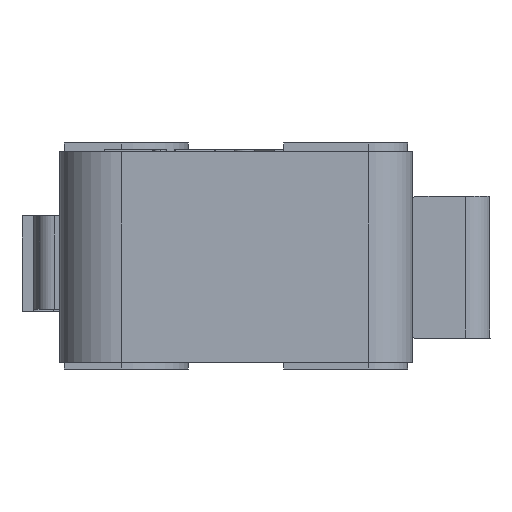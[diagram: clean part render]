
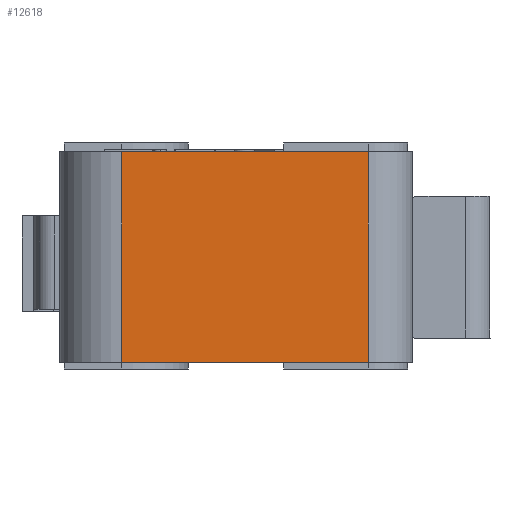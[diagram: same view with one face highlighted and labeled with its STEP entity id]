
A CAD part, left-side view. The second image highlights one B-rep face of the part: STEP entity #12618.
In plain terms, the highlighted planar face has unit normal (-1, 0, 0).
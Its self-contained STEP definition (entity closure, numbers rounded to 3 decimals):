
#193=DIRECTION('',(0.,0.,1.));
#194=VECTOR('',#193,9.5);
#195=CARTESIAN_POINT('',(-27.322,-2.908,
-4.7));
#196=LINE('',#195,#194);
#201=DIRECTION('',(0.,-1.,0.));
#202=VECTOR('',#201,11.1);
#203=CARTESIAN_POINT('',(-27.322,8.192,4.8));
#204=LINE('',#203,#202);
#209=DIRECTION('',(0.,0.,-1.));
#210=VECTOR('',#209,9.5);
#211=CARTESIAN_POINT('',(-27.322,8.192,4.8));
#212=LINE('',#211,#210);
#5869=DIRECTION('',(0.,-1.,0.));
#5870=VECTOR('',#5869,11.1);
#5871=CARTESIAN_POINT('',(-27.322,8.192,
-4.7));
#5872=LINE('',#5871,#5870);
#9865=CARTESIAN_POINT('',(-27.322,-2.908,
-4.7));
#9866=CARTESIAN_POINT('',(-27.322,-2.908,
4.8));
#9867=VERTEX_POINT('',#9865);
#9868=VERTEX_POINT('',#9866);
#9869=CARTESIAN_POINT('',(-27.322,8.192,4.8));
#9870=CARTESIAN_POINT('',(-27.322,8.192,
-4.7));
#9871=VERTEX_POINT('',#9869);
#9872=VERTEX_POINT('',#9870);
#12604=CARTESIAN_POINT('',(-27.322,10.992,
-4.7));
#12605=DIRECTION('',(-1.,0.,0.));
#12606=DIRECTION('',(0.,-1.,0.));
#12607=AXIS2_PLACEMENT_3D('',#12604,#12605,#12606);
#12608=PLANE('',#12607);
#12610=ORIENTED_EDGE('',*,*,#12609,.F.);
#12612=ORIENTED_EDGE('',*,*,#12611,.T.);
#12613=ORIENTED_EDGE('',*,*,#12594,.F.);
#12615=ORIENTED_EDGE('',*,*,#12614,.F.);
#12616=EDGE_LOOP('',(#12610,#12612,#12613,#12615));
#12617=FACE_OUTER_BOUND('',#12616,.F.);
#12618=ADVANCED_FACE('',(#12617),#12608,.T.);
#12594=EDGE_CURVE('',#9867,#9868,#196,.T.);
#12609=EDGE_CURVE('',#9871,#9872,#212,.T.);
#12611=EDGE_CURVE('',#9871,#9868,#204,.T.);
#12614=EDGE_CURVE('',#9872,#9867,#5872,.T.);
